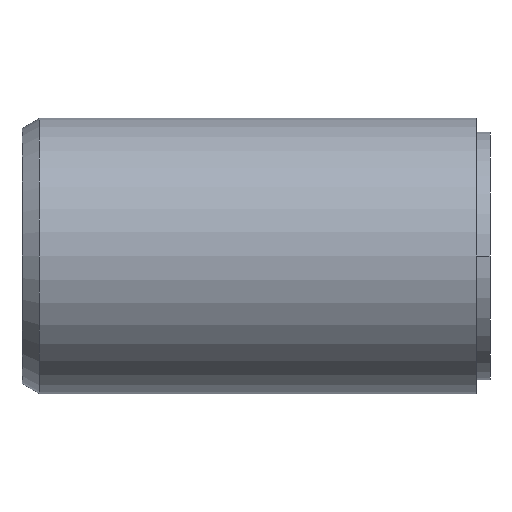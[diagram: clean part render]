
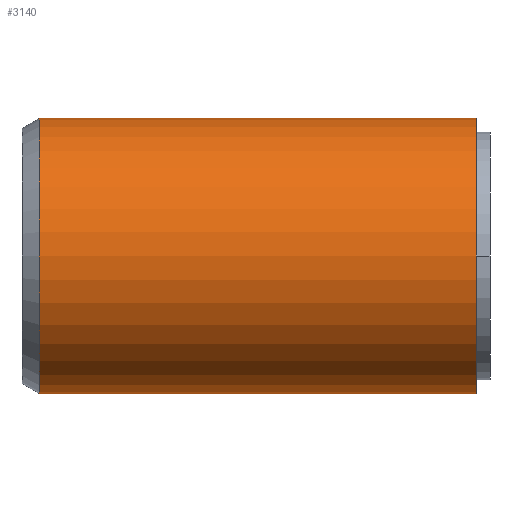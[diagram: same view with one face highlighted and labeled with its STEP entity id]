
A CAD part, front view. The second image highlights one B-rep face of the part: STEP entity #3140.
In plain terms, the highlighted cylindrical face has radius 40 mm (diameter 80 mm), a partial arc.
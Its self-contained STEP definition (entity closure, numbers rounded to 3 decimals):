
#7 = DIRECTION ( 'NONE',  ( -1., 0., 0. ) ) ;
#31 = VERTEX_POINT ( 'NONE', #339 ) ;
#67 = DIRECTION ( 'NONE',  ( -1., 0., 0. ) ) ;
#141 = EDGE_CURVE ( 'NONE', #259, #1181, #3417, .T. ) ;
#259 = VERTEX_POINT ( 'NONE', #3424 ) ;
#313 = AXIS2_PLACEMENT_3D ( 'NONE', #3123, #67, #2227 ) ;
#339 = CARTESIAN_POINT ( 'NONE',  ( 132., 0., -40. ) ) ;
#510 = AXIS2_PLACEMENT_3D ( 'NONE', #1125, #2419, #2121 ) ;
#627 = EDGE_CURVE ( 'NONE', #31, #3791, #4066, .T. ) ;
#637 = AXIS2_PLACEMENT_3D ( 'NONE', #2887, #989, #1067 ) ;
#649 = ORIENTED_EDGE ( 'NONE', *, *, #2032, .F. ) ;
#846 = ORIENTED_EDGE ( 'NONE', *, *, #4005, .T. ) ;
#891 = CYLINDRICAL_SURFACE ( 'NONE', #313, 40. ) ;
#989 = DIRECTION ( 'NONE',  ( 1., 0., 0. ) ) ;
#1067 = DIRECTION ( 'NONE',  ( 0., 0., -1. ) ) ;
#1125 = CARTESIAN_POINT ( 'NONE',  ( 132., 0., 0. ) ) ;
#1181 = VERTEX_POINT ( 'NONE', #1698 ) ;
#1466 = CARTESIAN_POINT ( 'NONE',  ( 132., 0., 40. ) ) ;
#1698 = CARTESIAN_POINT ( 'NONE',  ( 5., 0., -40. ) ) ;
#1851 = CARTESIAN_POINT ( 'NONE',  ( 0., 0., -40. ) ) ;
#2032 = EDGE_CURVE ( 'NONE', #31, #1181, #2793, .T. ) ;
#2121 = DIRECTION ( 'NONE',  ( 0., 0., 1. ) ) ;
#2227 = DIRECTION ( 'NONE',  ( 0., 0., 1. ) ) ;
#2251 = DIRECTION ( 'NONE',  ( -1., 0., 0. ) ) ;
#2419 = DIRECTION ( 'NONE',  ( -1., 0., 0. ) ) ;
#2773 = VECTOR ( 'NONE', #2251, 1000. ) ;
#2793 = LINE ( 'NONE', #1851, #3714 ) ;
#2872 = LINE ( 'NONE', #3459, #2773 ) ;
#2887 = CARTESIAN_POINT ( 'NONE',  ( 5., 0., 0. ) ) ;
#2981 = ORIENTED_EDGE ( 'NONE', *, *, #627, .T. ) ;
#3084 = ORIENTED_EDGE ( 'NONE', *, *, #141, .T. ) ;
#3123 = CARTESIAN_POINT ( 'NONE',  ( 0., 0., 0. ) ) ;
#3140 = ADVANCED_FACE ( 'NONE', ( #3378 ), #891, .T. ) ;
#3199 = EDGE_LOOP ( 'NONE', ( #649, #2981, #846, #3084 ) ) ;
#3378 = FACE_OUTER_BOUND ( 'NONE', #3199, .T. ) ;
#3417 = CIRCLE ( 'NONE', #637, 40. ) ;
#3424 = CARTESIAN_POINT ( 'NONE',  ( 5., 0., 40. ) ) ;
#3459 = CARTESIAN_POINT ( 'NONE',  ( 0., 0., 40. ) ) ;
#3714 = VECTOR ( 'NONE', #7, 1000. ) ;
#3791 = VERTEX_POINT ( 'NONE', #1466 ) ;
#4005 = EDGE_CURVE ( 'NONE', #3791, #259, #2872, .T. ) ;
#4066 = CIRCLE ( 'NONE', #510, 40. ) ;
